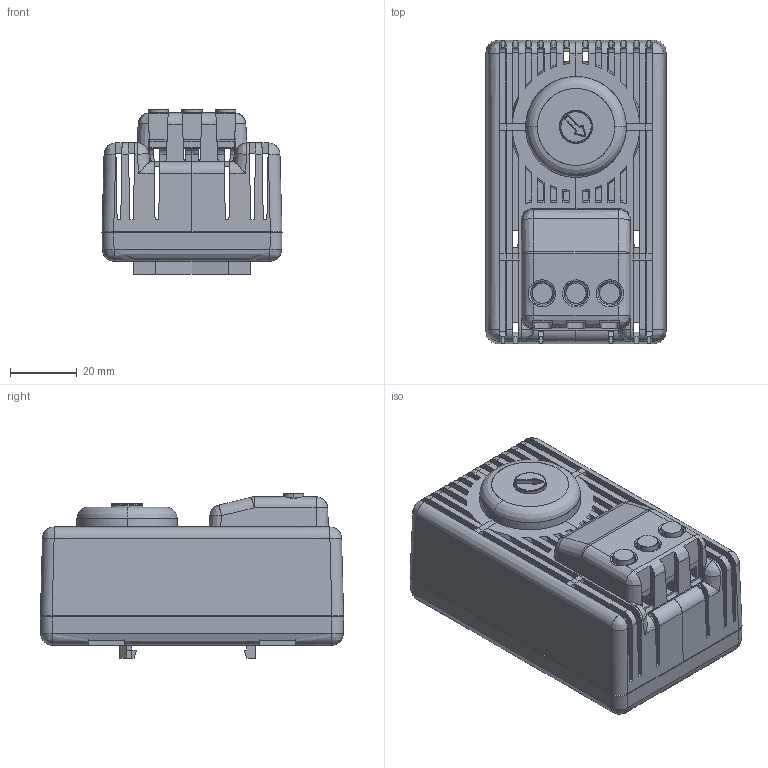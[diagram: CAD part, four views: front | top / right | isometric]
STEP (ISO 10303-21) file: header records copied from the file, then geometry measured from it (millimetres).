
FILE_DESCRIPTION(/* description */ (''),/* implementation_level */ '2;1');
FILE_NAME(/* name */ 'MUH',/* time_stamp */ '2016-08-01T15:12:17+02:00',/* author */ (''),/* organization */ (''),/* preprocessor_version */ 'ST-DEVELOPER v10',/* originating_system */ '',/* authorisation */ '');
FILE_SCHEMA (('CONFIG_CONTROL_DESIGN'));
Length unit declared in the file: millimetre
Products named in the file (1): 1
Bounding box: 54.08 x 91.08 x 49.55 mm (x, y, z)
Surface area: 47524.5 mm2 (no closed solid volume)
Topology: 0 solids, 736 shells, 758 faces, 4230 edges, 4186 vertices
Faces by surface type: bspline 469, plane 289
Entity records: 50424 total; most frequent: CARTESIAN_POINT 29157, ORIENTED_EDGE 4274, EDGE_CURVE 4230, VERTEX_POINT 4186, B_SPLINE_CURVE_WITH_KNOTS 3589, EDGE_LOOP 806, ADVANCED_FACE 758, FACE_OUTER_BOUND 758
